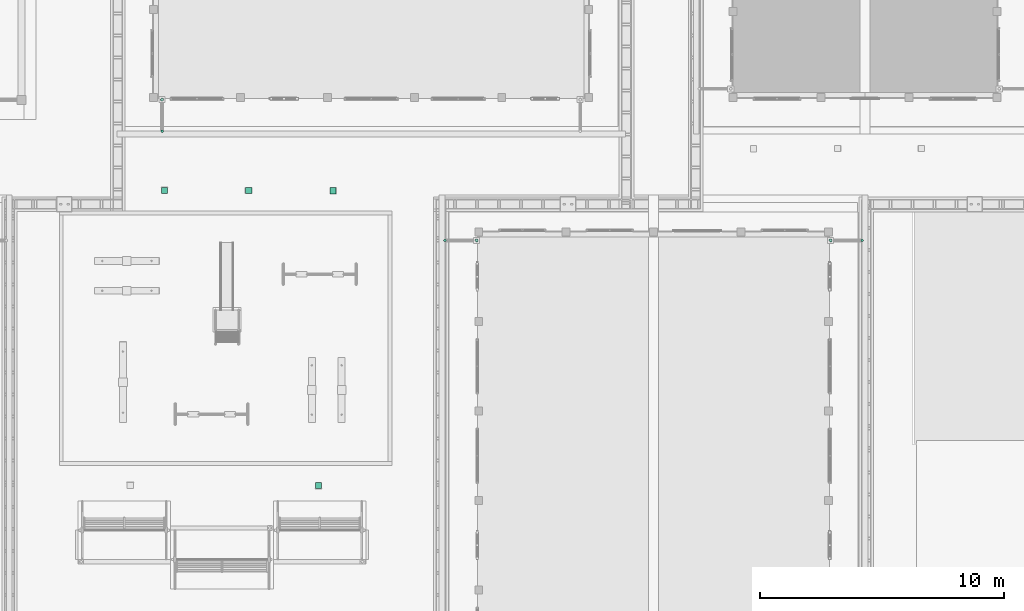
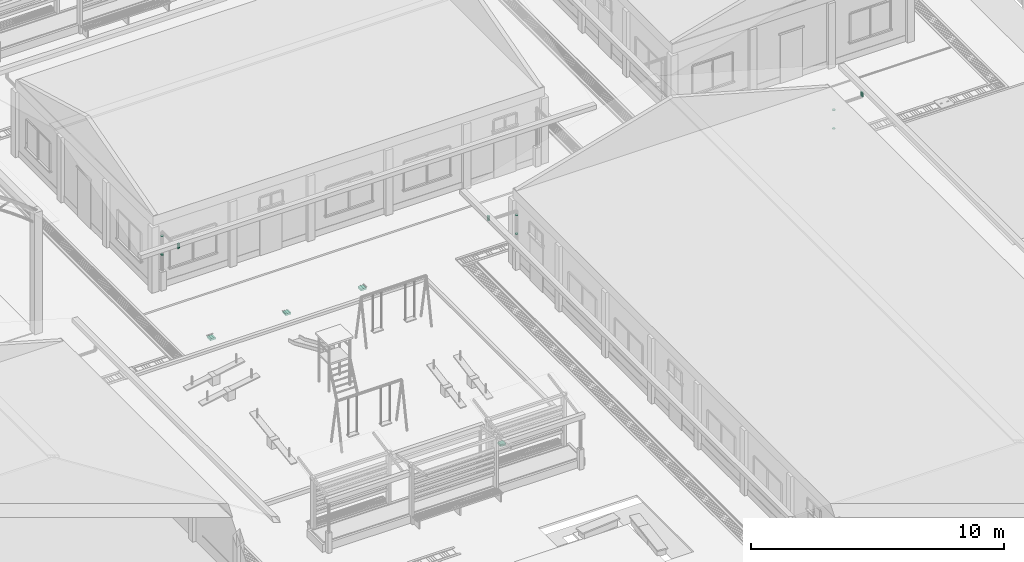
# One storey, part 118 of 151: 9 flow segments, 4 flow terminals.
"""IFC2X3 building model written with IfcOpenShell, lengths in metres."""

from ifc_helpers import new_model, si_unit, origin, origin_with_axes, place, context, subcontext, project, spatial, faceted_brep, element, save


model = new_model("IFC2X3")

# Units and contexts
model_context = context("Model", 3, precision=1e-05, world=origin_with_axes())
body_context = subcontext(model_context, "Body", "Model", "MODEL_VIEW")
ifc_project = project(units=[si_unit("LENGTHUNIT", "METRE"), si_unit("AREAUNIT", "SQUARE_METRE"), si_unit("VOLUMEUNIT", "CUBIC_METRE"), si_unit("PLANEANGLEUNIT", "RADIAN")], contexts=[model_context])

# Site, building, storey
site_placement = place(None, origin_with_axes())
site = spatial("IfcSite", under=ifc_project, at=site_placement, Name="Predio Los Mangos - Morales, San Martín", CompositionType="ELEMENT")
building_placement = place(site_placement, origin())
building = spatial("IfcBuilding", under=site, at=building_placement, Name="Hogar de Refugio Temporal", CompositionType="ELEMENT")
storey_placement = place(building_placement, origin())
storey = spatial("IfcBuildingStorey", under=building, at=storey_placement, Name="NIVEL 1 (NPT +0.00)", CompositionType="ELEMENT", Elevation=0.0)

# Flow segments
flow_segment_1_placement = place(storey_placement, origin())
element("IfcFlowSegment", 1, at=flow_segment_1_placement, inside=storey, Name="montante_boquilla", ObjectType="Montante PVC 4\"", context=body_context, shape_type="Brep", body=[
    faceted_brep([(43.92, 86.905, 3.13), (43.92, 86.905, 2.91), (43.8925, 86.8976, 2.91), (43.8925, 86.8976, 3.13), (43.8724, 86.8775, 2.91), (43.8724, 86.8775, 3.13), (43.865, 86.85, 2.91), (43.865, 86.85, 3.13), (43.8724, 86.8225, 2.91), (43.8724, 86.8225, 3.13), (43.8925, 86.8024, 2.91), (43.8925, 86.8024, 3.13), (43.92, 86.795, 2.91), (43.92, 86.795, 3.13), (43.9475, 86.8024, 2.91), (43.9475, 86.8024, 3.13), (43.9676, 86.8225, 2.91), (43.9676, 86.8225, 3.13), (43.975, 86.85, 2.91), (43.975, 86.85, 3.13), (43.9676, 86.8775, 2.91), (43.9676, 86.8775, 3.13), (43.9475, 86.8976, 2.91), (43.9475, 86.8976, 3.13)], [[[0, 1, 2, 3]], [[3, 2, 4, 5]], [[5, 4, 6, 7]], [[7, 6, 8, 9]], [[9, 8, 10, 11]], [[11, 10, 12, 13]], [[13, 12, 14, 15]], [[15, 14, 16, 17]], [[17, 16, 18, 19]], [[19, 18, 20, 21]], [[2, 1, 22, 20, 18, 16, 14, 12, 10, 8, 6, 4]], [[21, 20, 22, 23]], [[23, 22, 1, 0]], [[0, 3, 5, 7, 9, 11, 13, 15, 17, 19, 21, 23]]]),
])
flow_segment_2_placement = place(storey_placement, origin())
element("IfcFlowSegment", 2, at=flow_segment_2_placement, inside=storey, Name="montante_abrazadera", ObjectType="Montante PVC 4\"", context=body_context, shape_type="Brep", body=[
    faceted_brep([(45.21, 86.788, 1.8), (45.21, 86.788, 1.84), (45.179, 86.7963, 1.84), (45.179, 86.7963, 1.8), (45.1563, 86.819, 1.84), (45.1563, 86.819, 1.8), (45.148, 86.85, 1.84), (45.148, 86.85, 1.8), (45.1563, 86.881, 1.84), (45.1563, 86.881, 1.8), (45.179, 86.9037, 1.84), (45.179, 86.9037, 1.8), (45.21, 86.912, 1.84), (45.21, 86.912, 1.8), (45.241, 86.9037, 1.84), (45.241, 86.9037, 1.8), (45.2637, 86.881, 1.84), (45.2637, 86.881, 1.8), (45.272, 86.85, 1.84), (45.272, 86.85, 1.8), (45.2637, 86.819, 1.84), (45.2637, 86.819, 1.8), (45.241, 86.7963, 1.84), (45.241, 86.7963, 1.8)], [[[0, 1, 2, 3]], [[3, 2, 4, 5]], [[5, 4, 6, 7]], [[7, 6, 8, 9]], [[9, 8, 10, 11]], [[11, 10, 12, 13]], [[13, 12, 14, 15]], [[15, 14, 16, 17]], [[17, 16, 18, 19]], [[19, 18, 20, 21]], [[2, 1, 22, 20, 18, 16, 14, 12, 10, 8, 6, 4]], [[21, 20, 22, 23]], [[23, 22, 1, 0]], [[0, 3, 5, 7, 9, 11, 13, 15, 17, 19, 21, 23]]]),
])
flow_segment_3_placement = place(storey_placement, origin())
element("IfcFlowSegment", 3, at=flow_segment_3_placement, inside=storey, Name="montante_abrazadera", ObjectType="Montante PVC 4\"", context=body_context, shape_type="Brep", body=[
    faceted_brep([(45.21, 86.788, 2.7), (45.21, 86.788, 2.74), (45.179, 86.7963, 2.74), (45.179, 86.7963, 2.7), (45.1563, 86.819, 2.74), (45.1563, 86.819, 2.7), (45.148, 86.85, 2.74), (45.148, 86.85, 2.7), (45.1563, 86.881, 2.74), (45.1563, 86.881, 2.7), (45.179, 86.9037, 2.74), (45.179, 86.9037, 2.7), (45.21, 86.912, 2.74), (45.21, 86.912, 2.7), (45.241, 86.9037, 2.74), (45.241, 86.9037, 2.7), (45.2637, 86.881, 2.74), (45.2637, 86.881, 2.7), (45.272, 86.85, 2.74), (45.272, 86.85, 2.7), (45.2637, 86.819, 2.74), (45.2637, 86.819, 2.7), (45.241, 86.7963, 2.74), (45.241, 86.7963, 2.7)], [[[0, 1, 2, 3]], [[3, 2, 4, 5]], [[5, 4, 6, 7]], [[7, 6, 8, 9]], [[9, 8, 10, 11]], [[11, 10, 12, 13]], [[13, 12, 14, 15]], [[15, 14, 16, 17]], [[17, 16, 18, 19]], [[19, 18, 20, 21]], [[2, 1, 22, 20, 18, 16, 14, 12, 10, 8, 6, 4]], [[21, 20, 22, 23]], [[23, 22, 1, 0]], [[0, 3, 5, 7, 9, 11, 13, 15, 17, 19, 21, 23]]]),
])
flow_segment_4_placement = place(storey_placement, origin())
element("IfcFlowSegment", 4, at=flow_segment_4_placement, inside=storey, Name="montante_boquilla", ObjectType="Montante PVC 4\"", context=body_context, shape_type="Brep", body=[
    faceted_brep([(60.98, 86.905, 3.13), (60.98, 86.905, 2.91), (60.9525, 86.8976, 2.91), (60.9525, 86.8976, 3.13), (60.9324, 86.8775, 2.91), (60.9324, 86.8775, 3.13), (60.925, 86.85, 2.91), (60.925, 86.85, 3.13), (60.9324, 86.8225, 2.91), (60.9324, 86.8225, 3.13), (60.9525, 86.8024, 2.91), (60.9525, 86.8024, 3.13), (60.98, 86.795, 2.91), (60.98, 86.795, 3.13), (61.0075, 86.8024, 2.91), (61.0075, 86.8024, 3.13), (61.0276, 86.8225, 2.91), (61.0276, 86.8225, 3.13), (61.035, 86.85, 2.91), (61.035, 86.85, 3.13), (61.0276, 86.8775, 2.91), (61.0276, 86.8775, 3.13), (61.0075, 86.8976, 2.91), (61.0075, 86.8976, 3.13)], [[[0, 1, 2, 3]], [[3, 2, 4, 5]], [[5, 4, 6, 7]], [[7, 6, 8, 9]], [[9, 8, 10, 11]], [[11, 10, 12, 13]], [[13, 12, 14, 15]], [[15, 14, 16, 17]], [[17, 16, 18, 19]], [[19, 18, 20, 21]], [[2, 1, 22, 20, 18, 16, 14, 12, 10, 8, 6, 4]], [[21, 20, 22, 23]], [[23, 22, 1, 0]], [[0, 3, 5, 7, 9, 11, 13, 15, 17, 19, 21, 23]]]),
])
flow_segment_5_placement = place(storey_placement, origin())
element("IfcFlowSegment", 5, at=flow_segment_5_placement, inside=storey, Name="montante_abrazadera", ObjectType="Montante PVC 4\"", context=body_context, shape_type="Brep", body=[
    faceted_brep([(59.69, 86.788, 1.8), (59.69, 86.788, 1.84), (59.659, 86.7963, 1.84), (59.659, 86.7963, 1.8), (59.6363, 86.819, 1.84), (59.6363, 86.819, 1.8), (59.628, 86.85, 1.84), (59.628, 86.85, 1.8), (59.6363, 86.881, 1.84), (59.6363, 86.881, 1.8), (59.659, 86.9037, 1.84), (59.659, 86.9037, 1.8), (59.69, 86.912, 1.84), (59.69, 86.912, 1.8), (59.721, 86.9037, 1.84), (59.721, 86.9037, 1.8), (59.7437, 86.881, 1.84), (59.7437, 86.881, 1.8), (59.752, 86.85, 1.84), (59.752, 86.85, 1.8), (59.7437, 86.819, 1.84), (59.7437, 86.819, 1.8), (59.721, 86.7963, 1.84), (59.721, 86.7963, 1.8)], [[[0, 1, 2, 3]], [[3, 2, 4, 5]], [[5, 4, 6, 7]], [[7, 6, 8, 9]], [[9, 8, 10, 11]], [[11, 10, 12, 13]], [[13, 12, 14, 15]], [[15, 14, 16, 17]], [[17, 16, 18, 19]], [[19, 18, 20, 21]], [[2, 1, 22, 20, 18, 16, 14, 12, 10, 8, 6, 4]], [[21, 20, 22, 23]], [[23, 22, 1, 0]], [[0, 3, 5, 7, 9, 11, 13, 15, 17, 19, 21, 23]]]),
])
flow_segment_6_placement = place(storey_placement, origin())
element("IfcFlowSegment", 6, at=flow_segment_6_placement, inside=storey, Name="montante_abrazadera", ObjectType="Montante PVC 4\"", context=body_context, shape_type="Brep", body=[
    faceted_brep([(59.69, 86.788, 2.7), (59.69, 86.788, 2.74), (59.659, 86.7963, 2.74), (59.659, 86.7963, 2.7), (59.6363, 86.819, 2.74), (59.6363, 86.819, 2.7), (59.628, 86.85, 2.74), (59.628, 86.85, 2.7), (59.6363, 86.881, 2.74), (59.6363, 86.881, 2.7), (59.659, 86.9037, 2.74), (59.659, 86.9037, 2.7), (59.69, 86.912, 2.74), (59.69, 86.912, 2.7), (59.721, 86.9037, 2.74), (59.721, 86.9037, 2.7), (59.7437, 86.881, 2.74), (59.7437, 86.881, 2.7), (59.752, 86.85, 2.74), (59.752, 86.85, 2.7), (59.7437, 86.819, 2.74), (59.7437, 86.819, 2.7), (59.721, 86.7963, 2.74), (59.721, 86.7963, 2.7)], [[[0, 1, 2, 3]], [[3, 2, 4, 5]], [[5, 4, 6, 7]], [[7, 6, 8, 9]], [[9, 8, 10, 11]], [[11, 10, 12, 13]], [[13, 12, 14, 15]], [[15, 14, 16, 17]], [[17, 16, 18, 19]], [[19, 18, 20, 21]], [[2, 1, 22, 20, 18, 16, 14, 12, 10, 8, 6, 4]], [[21, 20, 22, 23]], [[23, 22, 1, 0]], [[0, 3, 5, 7, 9, 11, 13, 15, 17, 19, 21, 23]]]),
])
flow_segment_7_placement = place(storey_placement, origin())
element("IfcFlowSegment", 7, at=flow_segment_7_placement, inside=storey, Name="montante_boquilla", ObjectType="Montante PVC 4\"", context=body_context, shape_type="Brep", body=[
    faceted_brep([(32.35, 91.375, 3.13), (32.35, 91.375, 2.91), (32.3225, 91.3676, 2.91), (32.3225, 91.3676, 3.13), (32.3024, 91.3475, 2.91), (32.3024, 91.3475, 3.13), (32.295, 91.32, 2.91), (32.295, 91.32, 3.13), (32.3024, 91.2925, 2.91), (32.3024, 91.2925, 3.13), (32.3225, 91.2724, 2.91), (32.3225, 91.2724, 3.13), (32.35, 91.265, 2.91), (32.35, 91.265, 3.13), (32.3775, 91.2724, 2.91), (32.3775, 91.2724, 3.13), (32.3976, 91.2925, 2.91), (32.3976, 91.2925, 3.13), (32.405, 91.32, 2.91), (32.405, 91.32, 3.13), (32.3976, 91.3475, 2.91), (32.3976, 91.3475, 3.13), (32.3775, 91.3676, 2.91), (32.3775, 91.3676, 3.13)], [[[0, 1, 2, 3]], [[3, 2, 4, 5]], [[5, 4, 6, 7]], [[7, 6, 8, 9]], [[9, 8, 10, 11]], [[11, 10, 12, 13]], [[13, 12, 14, 15]], [[15, 14, 16, 17]], [[17, 16, 18, 19]], [[19, 18, 20, 21]], [[2, 1, 22, 20, 18, 16, 14, 12, 10, 8, 6, 4]], [[21, 20, 22, 23]], [[23, 22, 1, 0]], [[0, 3, 5, 7, 9, 11, 13, 15, 17, 19, 21, 23]]]),
])
flow_segment_8_placement = place(storey_placement, origin())
element("IfcFlowSegment", 8, at=flow_segment_8_placement, inside=storey, Name="montante_abrazadera", ObjectType="Montante PVC 4\"", context=body_context, shape_type="Brep", body=[
    faceted_brep([(32.35, 92.548, 1.8), (32.35, 92.548, 1.84), (32.319, 92.5563, 1.84), (32.319, 92.5563, 1.8), (32.2963, 92.579, 1.84), (32.2963, 92.579, 1.8), (32.288, 92.61, 1.84), (32.288, 92.61, 1.8), (32.2963, 92.641, 1.84), (32.2963, 92.641, 1.8), (32.319, 92.6637, 1.84), (32.319, 92.6637, 1.8), (32.35, 92.672, 1.84), (32.35, 92.672, 1.8), (32.381, 92.6637, 1.84), (32.381, 92.6637, 1.8), (32.4037, 92.641, 1.84), (32.4037, 92.641, 1.8), (32.412, 92.61, 1.84), (32.412, 92.61, 1.8), (32.4037, 92.579, 1.84), (32.4037, 92.579, 1.8), (32.381, 92.5563, 1.84), (32.381, 92.5563, 1.8)], [[[0, 1, 2, 3]], [[3, 2, 4, 5]], [[5, 4, 6, 7]], [[7, 6, 8, 9]], [[9, 8, 10, 11]], [[11, 10, 12, 13]], [[13, 12, 14, 15]], [[15, 14, 16, 17]], [[17, 16, 18, 19]], [[19, 18, 20, 21]], [[2, 1, 22, 20, 18, 16, 14, 12, 10, 8, 6, 4]], [[21, 20, 22, 23]], [[23, 22, 1, 0]], [[0, 3, 5, 7, 9, 11, 13, 15, 17, 19, 21, 23]]]),
])
flow_segment_9_placement = place(storey_placement, origin())
element("IfcFlowSegment", 9, at=flow_segment_9_placement, inside=storey, Name="montante_abrazadera", ObjectType="Montante PVC 4\"", context=body_context, shape_type="Brep", body=[
    faceted_brep([(32.35, 92.548, 2.7), (32.35, 92.548, 2.74), (32.319, 92.5563, 2.74), (32.319, 92.5563, 2.7), (32.2963, 92.579, 2.74), (32.2963, 92.579, 2.7), (32.288, 92.61, 2.74), (32.288, 92.61, 2.7), (32.2963, 92.641, 2.74), (32.2963, 92.641, 2.7), (32.319, 92.6637, 2.74), (32.319, 92.6637, 2.7), (32.35, 92.672, 2.74), (32.35, 92.672, 2.7), (32.381, 92.6637, 2.74), (32.381, 92.6637, 2.7), (32.4037, 92.641, 2.74), (32.4037, 92.641, 2.7), (32.412, 92.61, 2.74), (32.412, 92.61, 2.7), (32.4037, 92.579, 2.74), (32.4037, 92.579, 2.7), (32.381, 92.5563, 2.74), (32.381, 92.5563, 2.7)], [[[0, 1, 2, 3]], [[3, 2, 4, 5]], [[5, 4, 6, 7]], [[7, 6, 8, 9]], [[9, 8, 10, 11]], [[11, 10, 12, 13]], [[13, 12, 14, 15]], [[15, 14, 16, 17]], [[17, 16, 18, 19]], [[19, 18, 20, 21]], [[2, 1, 22, 20, 18, 16, 14, 12, 10, 8, 6, 4]], [[21, 20, 22, 23]], [[23, 22, 1, 0]], [[0, 3, 5, 7, 9, 11, 13, 15, 17, 19, 21, 23]]]),
])

# Flow terminals
flow_terminal_1_placement = place(storey_placement, origin())
element("IfcFlowTerminal", 10, at=flow_terminal_1_placement, inside=storey, Name="sumidero_fondo", ObjectType="Sumidero con rejilla", context=body_context, shape_type="Brep", body=[
    faceted_brep([(38.622, 76.702, -0.02), (38.622, 76.952, -0.02), (38.872, 76.952, -0.02), (38.872, 76.702, -0.02), (38.622, 76.702, 0.064), (38.872, 76.702, 0.064), (38.872, 76.952, 0.064), (38.622, 76.952, 0.064)], [[[0, 1, 2, 3]], [[4, 5, 6, 7]], [[0, 3, 5, 4]], [[3, 2, 6, 5]], [[2, 1, 7, 6]], [[1, 0, 4, 7]]]),
])
flow_terminal_2_placement = place(storey_placement, origin())
element("IfcFlowTerminal", 11, at=flow_terminal_2_placement, inside=storey, Name="sumidero_fondo", ObjectType="Sumidero con rejilla", context=body_context, shape_type="Brep", body=[
    faceted_brep([(39.21, 88.757, -0.02), (39.21, 89.007, -0.02), (39.46, 89.007, -0.02), (39.46, 88.757, -0.02), (39.21, 88.757, 0.064), (39.46, 88.757, 0.064), (39.46, 89.007, 0.064), (39.21, 89.007, 0.064)], [[[0, 1, 2, 3]], [[4, 5, 6, 7]], [[0, 3, 5, 4]], [[3, 2, 6, 5]], [[2, 1, 7, 6]], [[1, 0, 4, 7]]]),
])
flow_terminal_3_placement = place(storey_placement, origin())
element("IfcFlowTerminal", 12, at=flow_terminal_3_placement, inside=storey, Name="sumidero_fondo", ObjectType="Sumidero con rejilla", context=body_context, shape_type="Brep", body=[
    faceted_brep([(35.77, 88.767, -0.02), (35.77, 89.017, -0.02), (36.02, 89.017, -0.02), (36.02, 88.767, -0.02), (35.77, 88.767, 0.064), (36.02, 88.767, 0.064), (36.02, 89.017, 0.064), (35.77, 89.017, 0.064)], [[[0, 1, 2, 3]], [[4, 5, 6, 7]], [[0, 3, 5, 4]], [[3, 2, 6, 5]], [[2, 1, 7, 6]], [[1, 0, 4, 7]]]),
])
flow_terminal_4_placement = place(storey_placement, origin())
element("IfcFlowTerminal", 13, at=flow_terminal_4_placement, inside=storey, Name="sumidero_fondo", ObjectType="Sumidero con rejilla", context=body_context, shape_type="Brep", body=[
    faceted_brep([(32.33, 88.767, -0.02), (32.33, 89.017, -0.02), (32.58, 89.017, -0.02), (32.58, 88.767, -0.02), (32.33, 88.767, 0.064), (32.58, 88.767, 0.064), (32.58, 89.017, 0.064), (32.33, 89.017, 0.064)], [[[0, 1, 2, 3]], [[4, 5, 6, 7]], [[0, 3, 5, 4]], [[3, 2, 6, 5]], [[2, 1, 7, 6]], [[1, 0, 4, 7]]]),
])

save(model, "model.ifc")
